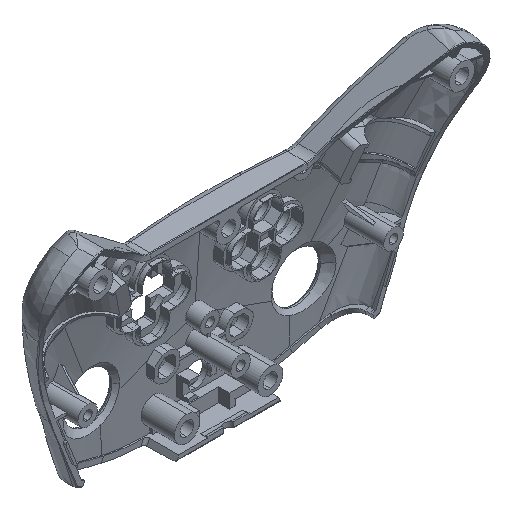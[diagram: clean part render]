
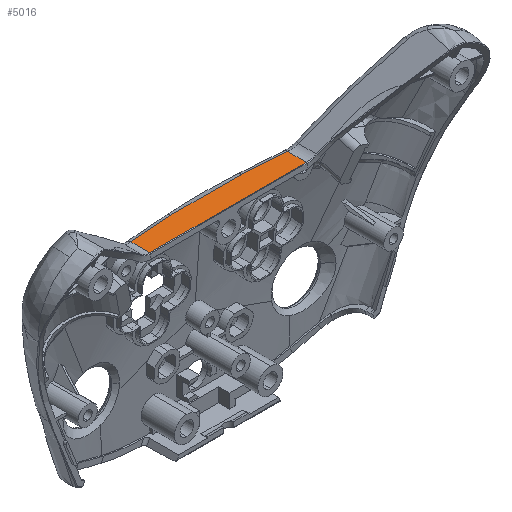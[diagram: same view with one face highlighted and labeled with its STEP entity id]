
A CAD part, isometric view. The second image highlights one B-rep face of the part: STEP entity #5016.
In plain terms, the highlighted planar face has unit normal (0, 0, 1).
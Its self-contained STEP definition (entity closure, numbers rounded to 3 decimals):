
#286 = CARTESIAN_POINT ( 'NONE',  ( -28.18, 36.189, 0. ) ) ;
#1628 = AXIS2_PLACEMENT_3D ( 'NONE', #7837, #57832, #43514 ) ;
#3122 = DIRECTION ( 'NONE',  ( 1., 0., 0. ) ) ;
#5016 = ADVANCED_FACE ( 'NONE', ( #20995 ), #57540, .F. ) ;
#5210 = EDGE_CURVE ( 'NONE', #36169, #38755, #39894, .T. ) ;
#5356 = CARTESIAN_POINT ( 'NONE',  ( -12.647, 44.134, 0. ) ) ;
#6710 = ORIENTED_EDGE ( 'NONE', *, *, #14832, .F. ) ;
#7272 = VERTEX_POINT ( 'NONE', #51718 ) ;
#7837 = CARTESIAN_POINT ( 'NONE',  ( -30., 50., 0. ) ) ;
#8442 = CARTESIAN_POINT ( 'NONE',  ( -28.18, 42.992, 0. ) ) ;
#9359 = EDGE_CURVE ( 'NONE', #7272, #44312, #38746, .T. ) ;
#9751 = ORIENTED_EDGE ( 'NONE', *, *, #37793, .F. ) ;
#9973 = CARTESIAN_POINT ( 'NONE',  ( -30., 36.189, 0. ) ) ;
#10081 = VECTOR ( 'NONE', #39042, 1000. ) ;
#10638 = DIRECTION ( 'NONE',  ( 0., 1., 0. ) ) ;
#10906 = CARTESIAN_POINT ( 'NONE',  ( 12.647, 44.134, 0. ) ) ;
#11727 =( BOUNDED_CURVE ( )  B_SPLINE_CURVE ( 3, ( #33301, #50578, #54956, #28921 ),
 .UNSPECIFIED., .F., .F. ) 
 B_SPLINE_CURVE_WITH_KNOTS ( ( 4, 4 ),
 ( 0.448, 1. ),
 .UNSPECIFIED. ) 
 CURVE ( )  GEOMETRIC_REPRESENTATION_ITEM ( )  RATIONAL_B_SPLINE_CURVE ( ( 1., 1., 1., 1. ) ) 
 REPRESENTATION_ITEM ( '' )  );
#12728 = CARTESIAN_POINT ( 'NONE',  ( 28.18, 50., 0. ) ) ;
#14206 = ORIENTED_EDGE ( 'NONE', *, *, #9359, .F. ) ;
#14411 = ORIENTED_EDGE ( 'NONE', *, *, #28584, .T. ) ;
#14818 = CARTESIAN_POINT ( 'NONE',  ( -12.647, 44.134, 0. ) ) ;
#14832 = EDGE_CURVE ( 'NONE', #38755, #24014, #31207, .T. ) ;
#15522 = VECTOR ( 'NONE', #10638, 1000. ) ;
#16683 = VECTOR ( 'NONE', #3122, 1000. ) ;
#19670 = ORIENTED_EDGE ( 'NONE', *, *, #5210, .F. ) ;
#20995 = FACE_OUTER_BOUND ( 'NONE', #32502, .T. ) ;
#23494 = CARTESIAN_POINT ( 'NONE',  ( -4.216, 44.712, 0. ) ) ;
#23602 = CARTESIAN_POINT ( 'NONE',  ( -17.839, 43.777, 0. ) ) ;
#24014 = VERTEX_POINT ( 'NONE', #39465 ) ;
#28584 = EDGE_CURVE ( 'NONE', #39641, #44312, #43189, .T. ) ;
#28921 = CARTESIAN_POINT ( 'NONE',  ( 28.18, 42.992, 0. ) ) ;
#30759 = ORIENTED_EDGE ( 'NONE', *, *, #44877, .F. ) ;
#31207 = B_SPLINE_CURVE_WITH_KNOTS ( 'NONE', 3,
 ( #5356, #23494, #49818, #10906 ),
 .UNSPECIFIED., .F., .F.,
 ( 4, 4 ),
 ( 0., 0.025 ),
 .UNSPECIFIED. ) ;
#32502 = EDGE_LOOP ( 'NONE', ( #9751, #14411, #14206, #30759, #6710, #19670 ) ) ;
#33301 = CARTESIAN_POINT ( 'NONE',  ( 12.647, 44.134, 0. ) ) ;
#36169 = VERTEX_POINT ( 'NONE', #8442 ) ;
#37793 = EDGE_CURVE ( 'NONE', #39641, #36169, #50990, .T. ) ;
#38746 = LINE ( 'NONE', #12728, #10081 ) ;
#38755 = VERTEX_POINT ( 'NONE', #39264 ) ;
#39042 = DIRECTION ( 'NONE',  ( 0., -1., 0. ) ) ;
#39264 = CARTESIAN_POINT ( 'NONE',  ( -12.647, 44.134, 0. ) ) ;
#39465 = CARTESIAN_POINT ( 'NONE',  ( 12.647, 44.134, 0. ) ) ;
#39641 = VERTEX_POINT ( 'NONE', #286 ) ;
#39894 = B_SPLINE_CURVE_WITH_KNOTS ( 'NONE', 3,
 ( #40553, #40273, #23602, #14818 ),
 .UNSPECIFIED., .F., .F.,
 ( 4, 4 ),
 ( 0., 0.552 ),
 .UNSPECIFIED. ) ;
#40273 = CARTESIAN_POINT ( 'NONE',  ( -23.018, 43.397, 0. ) ) ;
#40553 = CARTESIAN_POINT ( 'NONE',  ( -28.18, 42.992, 0. ) ) ;
#42203 = CARTESIAN_POINT ( 'NONE',  ( -28.18, 50., 0. ) ) ;
#43189 = LINE ( 'NONE', #9973, #16683 ) ;
#43514 = DIRECTION ( 'NONE',  ( -1., 0., 0. ) ) ;
#44312 = VERTEX_POINT ( 'NONE', #52426 ) ;
#44877 = EDGE_CURVE ( 'NONE', #24014, #7272, #11727, .T. ) ;
#49818 = CARTESIAN_POINT ( 'NONE',  ( 4.216, 44.712, 0. ) ) ;
#50578 = CARTESIAN_POINT ( 'NONE',  ( 17.839, 43.777, 0. ) ) ;
#50990 = LINE ( 'NONE', #42203, #15522 ) ;
#51718 = CARTESIAN_POINT ( 'NONE',  ( 28.18, 42.992, 0. ) ) ;
#52426 = CARTESIAN_POINT ( 'NONE',  ( 28.18, 36.189, 0. ) ) ;
#54956 = CARTESIAN_POINT ( 'NONE',  ( 23.018, 43.397, 0. ) ) ;
#57540 = PLANE ( 'NONE',  #1628 ) ;
#57832 = DIRECTION ( 'NONE',  ( 0., 0., -1. ) ) ;
